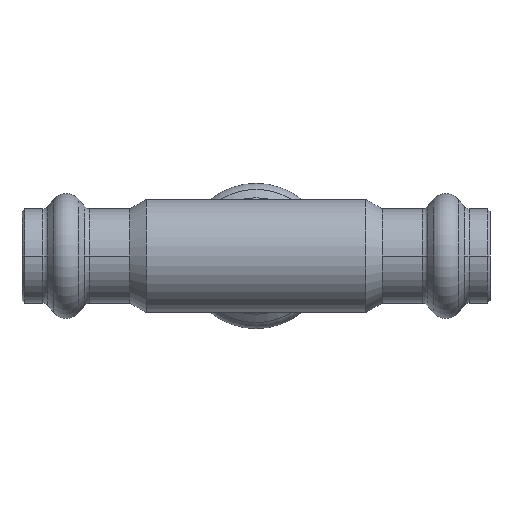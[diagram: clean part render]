
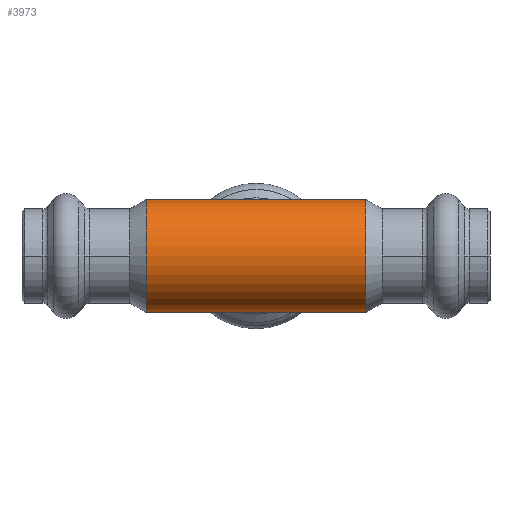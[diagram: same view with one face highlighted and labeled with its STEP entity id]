
A CAD part, front view. The second image highlights one B-rep face of the part: STEP entity #3973.
In plain terms, the highlighted cylindrical face has radius 8.95 mm (diameter 17.9 mm), a partial arc.
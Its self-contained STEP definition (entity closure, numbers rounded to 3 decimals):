
#103 = DIRECTION ( 'NONE',  ( 0., 0., 1. ) ) ;
#108 = EDGE_LOOP ( 'NONE', ( #3674, #1043, #1456, #1007 ) ) ;
#171 = CARTESIAN_POINT ( 'NONE',  ( -58.611, 0., -8.95 ) ) ;
#220 = AXIS2_PLACEMENT_3D ( 'NONE', #2878, #580, #3271 ) ;
#236 = DIRECTION ( 'NONE',  ( -1., 0., 0. ) ) ;
#437 = EDGE_CURVE ( 'NONE', #3155, #3475, #3249, .T. ) ;
#580 = DIRECTION ( 'NONE',  ( -1., 0., 0. ) ) ;
#756 = LINE ( 'NONE', #1080, #3688 ) ;
#1007 = ORIENTED_EDGE ( 'NONE', *, *, #2991, .F. ) ;
#1009 = DIRECTION ( 'NONE',  ( 0., 0., 1. ) ) ;
#1043 = ORIENTED_EDGE ( 'NONE', *, *, #437, .F. ) ;
#1080 = CARTESIAN_POINT ( 'NONE',  ( -58.611, 0., 8.95 ) ) ;
#1176 = EDGE_CURVE ( 'NONE', #3475, #2938, #3952, .T. ) ;
#1442 = DIRECTION ( 'NONE',  ( -1., 0., 0. ) ) ;
#1456 = ORIENTED_EDGE ( 'NONE', *, *, #4099, .T. ) ;
#1722 = DIRECTION ( 'NONE',  ( 1., 0., 0. ) ) ;
#1889 = AXIS2_PLACEMENT_3D ( 'NONE', #2037, #1722, #103 ) ;
#1927 = VECTOR ( 'NONE', #236, 1000. ) ;
#1942 = CARTESIAN_POINT ( 'NONE',  ( 17.347, 0., 8.95 ) ) ;
#2037 = CARTESIAN_POINT ( 'NONE',  ( 17.347, 0., 0. ) ) ;
#2115 = CYLINDRICAL_SURFACE ( 'NONE', #2811, 8.95 ) ;
#2193 = CARTESIAN_POINT ( 'NONE',  ( 17.347, 0., -8.95 ) ) ;
#2534 = VERTEX_POINT ( 'NONE', #4351 ) ;
#2811 = AXIS2_PLACEMENT_3D ( 'NONE', #3695, #4063, #1009 ) ;
#2878 = CARTESIAN_POINT ( 'NONE',  ( -17.347, 0., 0. ) ) ;
#2938 = VERTEX_POINT ( 'NONE', #3202 ) ;
#2991 = EDGE_CURVE ( 'NONE', #2938, #2534, #4487, .T. ) ;
#3155 = VERTEX_POINT ( 'NONE', #1942 ) ;
#3202 = CARTESIAN_POINT ( 'NONE',  ( -17.347, 0., -8.95 ) ) ;
#3249 = CIRCLE ( 'NONE', #1889, 8.95 ) ;
#3262 = FACE_OUTER_BOUND ( 'NONE', #108, .T. ) ;
#3271 = DIRECTION ( 'NONE',  ( 0., 0., -1. ) ) ;
#3475 = VERTEX_POINT ( 'NONE', #2193 ) ;
#3674 = ORIENTED_EDGE ( 'NONE', *, *, #1176, .F. ) ;
#3688 = VECTOR ( 'NONE', #1442, 1000. ) ;
#3695 = CARTESIAN_POINT ( 'NONE',  ( -58.611, 0., 0. ) ) ;
#3952 = LINE ( 'NONE', #171, #1927 ) ;
#3973 = ADVANCED_FACE ( 'NONE', ( #3262 ), #2115, .T. ) ;
#4063 = DIRECTION ( 'NONE',  ( -1., 0., 0. ) ) ;
#4099 = EDGE_CURVE ( 'NONE', #3155, #2534, #756, .T. ) ;
#4351 = CARTESIAN_POINT ( 'NONE',  ( -17.347, 0., 8.95 ) ) ;
#4487 = CIRCLE ( 'NONE', #220, 8.95 ) ;
